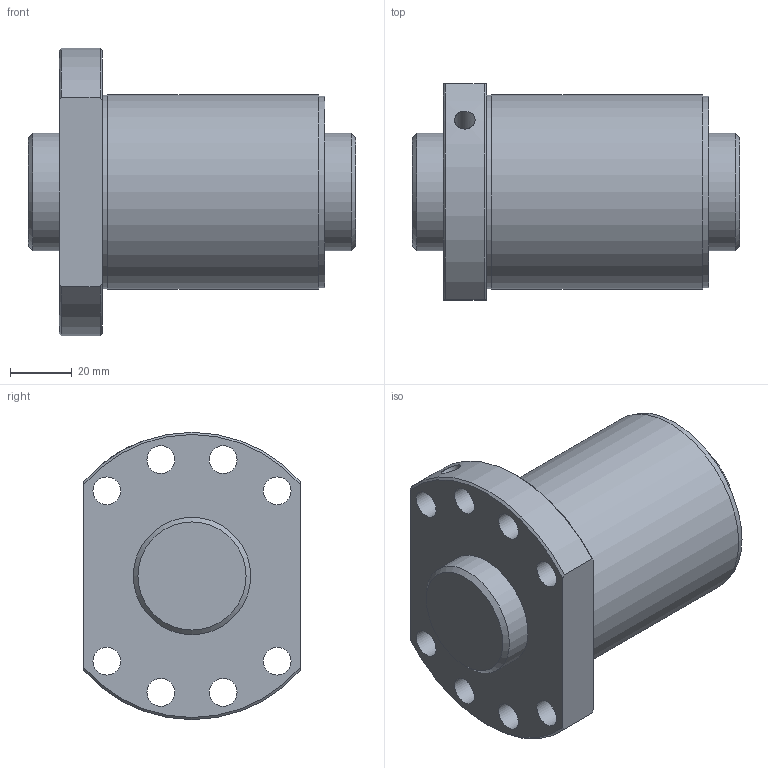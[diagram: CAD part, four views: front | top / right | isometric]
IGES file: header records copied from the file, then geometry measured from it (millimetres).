
Start section: Data from Parasolid IGES Translator 26.0.171, Copyright(c) 2006 Siemens PLM Software. All Rights Reserved.
Global section: file name: SDA3815V-5G0+106LC0(0G000).igs; native system: By Siemens PLM Incorporated; preprocessor: XPlus GENERIC/IGES 26.0.171; author: Noname; organization: Noname; date: 20240528.113342; units: millimetre
Bounding box: 106 x 70 x 93 mm (x, y, z)
Surface area: 55120.4 mm2 (no closed solid volume)
Topology: 0 solids, 0 shells, 33 faces, 154 edges, 128 vertices
Faces by surface type: revolution 24, extrusion 9
